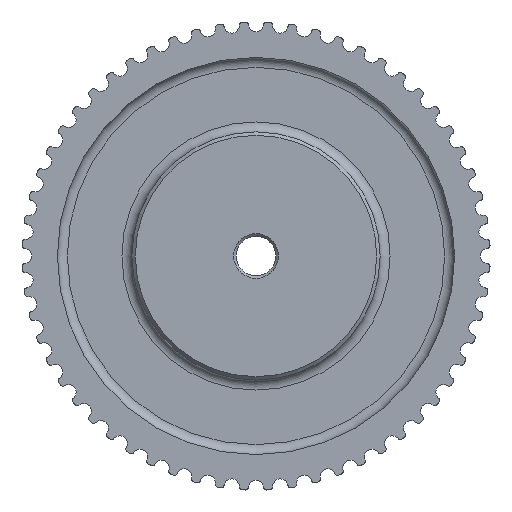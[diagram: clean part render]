
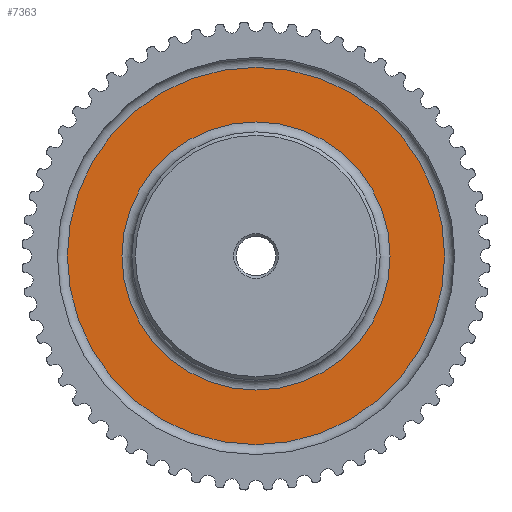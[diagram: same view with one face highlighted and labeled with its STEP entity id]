
A CAD part, left-side view. The second image highlights one B-rep face of the part: STEP entity #7363.
In plain terms, the highlighted planar face has unit normal (-1, 0, 0).
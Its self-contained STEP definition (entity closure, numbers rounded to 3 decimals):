
#26=FACE_BOUND('',#906,.T.);
#152=PLANE('',#8261);
#523=FACE_OUTER_BOUND('',#905,.T.);
#905=EDGE_LOOP('',(#6702));
#906=EDGE_LOOP('',(#6703));
#2631=CIRCLE('',#8259,27.);
#2633=CIRCLE('',#8262,38.);
#3379=VERTEX_POINT('',#12871);
#3380=VERTEX_POINT('',#12876);
#4489=EDGE_CURVE('',#3379,#3379,#2631,.T.);
#4491=EDGE_CURVE('',#3380,#3380,#2633,.T.);
#6702=ORIENTED_EDGE('',*,*,#4491,.F.);
#6703=ORIENTED_EDGE('',*,*,#4489,.F.);
#7363=ADVANCED_FACE('',(#523,#26),#152,.T.);
#8259=AXIS2_PLACEMENT_3D('',#12873,#10614,#10615);
#8261=AXIS2_PLACEMENT_3D('',#12875,#10618,#10619);
#8262=AXIS2_PLACEMENT_3D('',#12877,#10620,#10621);
#10614=DIRECTION('center_axis',(-1.,0.,0.));
#10615=DIRECTION('ref_axis',(0.,-1.,0.));
#10618=DIRECTION('center_axis',(-1.,0.,0.));
#10619=DIRECTION('ref_axis',(0.,0.,1.));
#10620=DIRECTION('center_axis',(1.,0.,0.));
#10621=DIRECTION('ref_axis',(0.,-1.,0.));
#12871=CARTESIAN_POINT('',(6.5,0.,27.));
#12873=CARTESIAN_POINT('Origin',(6.5,0.,0.));
#12875=CARTESIAN_POINT('Origin',(6.5,40.,0.));
#12876=CARTESIAN_POINT('',(6.5,0.,38.));
#12877=CARTESIAN_POINT('Origin',(6.5,0.,0.));
